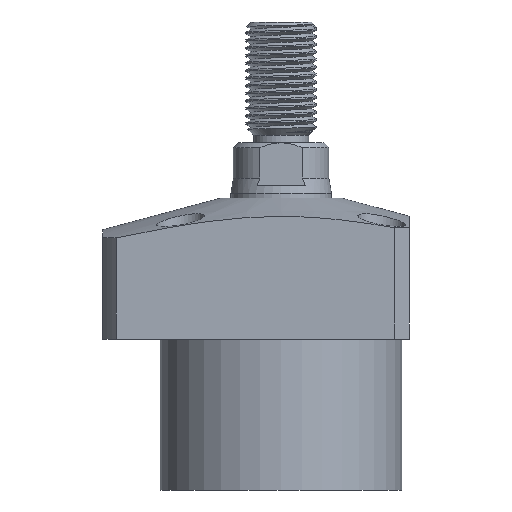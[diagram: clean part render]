
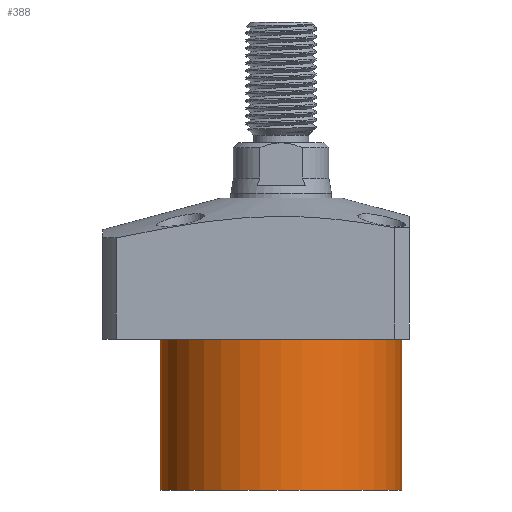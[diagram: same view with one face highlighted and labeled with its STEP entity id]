
A CAD part, front view. The second image highlights one B-rep face of the part: STEP entity #388.
In plain terms, the highlighted cylindrical face has radius 24 mm (diameter 48 mm), a partial arc.
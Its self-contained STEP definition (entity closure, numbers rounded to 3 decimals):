
#13 = CARTESIAN_POINT ( 'NONE',  ( -24., 0., -44. ) ) ;
#202 = CARTESIAN_POINT ( 'NONE',  ( 0., 0., -44. ) ) ;
#333 = FACE_OUTER_BOUND ( 'NONE', #782, .T. ) ;
#388 = ADVANCED_FACE ( 'NONE', ( #333 ), #3346, .T. ) ;
#583 = ORIENTED_EDGE ( 'NONE', *, *, #3369, .T. ) ;
#607 = LINE ( 'NONE', #3928, #2868 ) ;
#633 = DIRECTION ( 'NONE',  ( -1., 0., 0. ) ) ;
#673 = DIRECTION ( 'NONE',  ( 0., 0., 1. ) ) ;
#782 = EDGE_LOOP ( 'NONE', ( #4308, #4097, #848, #583 ) ) ;
#848 = ORIENTED_EDGE ( 'NONE', *, *, #3879, .T. ) ;
#997 = CARTESIAN_POINT ( 'NONE',  ( 24., 0., -44. ) ) ;
#1106 = CIRCLE ( 'NONE', #2064, 24. ) ;
#1121 = CARTESIAN_POINT ( 'NONE',  ( -24., 0., -44. ) ) ;
#1161 = VERTEX_POINT ( 'NONE', #2769 ) ;
#1308 = EDGE_CURVE ( 'NONE', #3613, #1842, #1106, .T. ) ;
#1842 = VERTEX_POINT ( 'NONE', #1121 ) ;
#2064 = AXIS2_PLACEMENT_3D ( 'NONE', #202, #4974, #633 ) ;
#2097 = LINE ( 'NONE', #13, #3173 ) ;
#2106 = VERTEX_POINT ( 'NONE', #4061 ) ;
#2113 = AXIS2_PLACEMENT_3D ( 'NONE', #3970, #2386, #3255 ) ;
#2386 = DIRECTION ( 'NONE',  ( 0., 0., -1. ) ) ;
#2769 = CARTESIAN_POINT ( 'NONE',  ( -24., 0., -14. ) ) ;
#2868 = VECTOR ( 'NONE', #5126, 1000. ) ;
#2974 = EDGE_CURVE ( 'NONE', #1842, #1161, #2097, .T. ) ;
#3173 = VECTOR ( 'NONE', #4934, 1000. ) ;
#3255 = DIRECTION ( 'NONE',  ( 1., 0., 0. ) ) ;
#3346 = CYLINDRICAL_SURFACE ( 'NONE', #4671, 24. ) ;
#3369 = EDGE_CURVE ( 'NONE', #2106, #1161, #4789, .T. ) ;
#3613 = VERTEX_POINT ( 'NONE', #997 ) ;
#3836 = CARTESIAN_POINT ( 'NONE',  ( 0., 0., -44. ) ) ;
#3879 = EDGE_CURVE ( 'NONE', #3613, #2106, #607, .T. ) ;
#3928 = CARTESIAN_POINT ( 'NONE',  ( 24., 0., -44. ) ) ;
#3970 = CARTESIAN_POINT ( 'NONE',  ( 0., 0., -14. ) ) ;
#4061 = CARTESIAN_POINT ( 'NONE',  ( 24., 0., -14. ) ) ;
#4097 = ORIENTED_EDGE ( 'NONE', *, *, #1308, .F. ) ;
#4308 = ORIENTED_EDGE ( 'NONE', *, *, #2974, .F. ) ;
#4671 = AXIS2_PLACEMENT_3D ( 'NONE', #3836, #673, #5054 ) ;
#4789 = CIRCLE ( 'NONE', #2113, 24. ) ;
#4934 = DIRECTION ( 'NONE',  ( 0., 0., 1. ) ) ;
#4974 = DIRECTION ( 'NONE',  ( 0., 0., -1. ) ) ;
#5054 = DIRECTION ( 'NONE',  ( 1., 0., 0. ) ) ;
#5126 = DIRECTION ( 'NONE',  ( 0., 0., 1. ) ) ;
